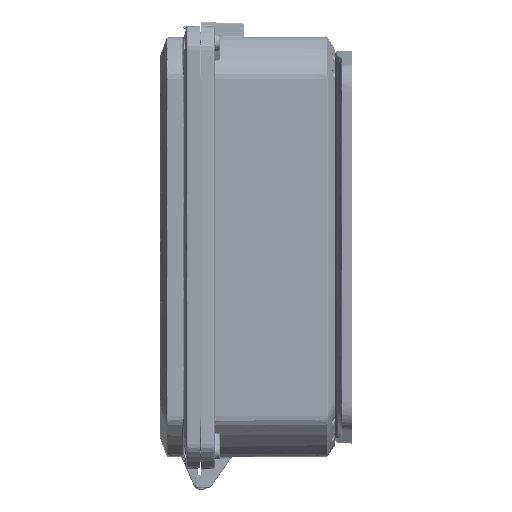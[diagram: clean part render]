
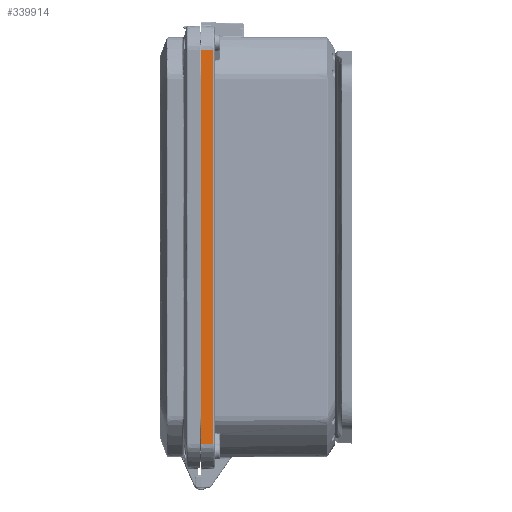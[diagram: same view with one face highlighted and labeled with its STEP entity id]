
A CAD part, left-side view. The second image highlights one B-rep face of the part: STEP entity #339914.
In plain terms, the highlighted planar face has unit normal (-0.999, -0.035, 0).
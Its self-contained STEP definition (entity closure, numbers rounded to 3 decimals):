
#9771 = EDGE_CURVE ( 'NONE', #46878, #122331, #113957, .T. ) ;
#10812 = ORIENTED_EDGE ( 'NONE', *, *, #127787, .T. ) ;
#12592 = DIRECTION ( 'NONE',  ( 0.035, -0.999, 0. ) ) ;
#20513 = EDGE_LOOP ( 'NONE', ( #248879, #258078, #123586, #10812 ) ) ;
#46878 = VERTEX_POINT ( 'NONE', #290424 ) ;
#48243 = CARTESIAN_POINT ( 'NONE',  ( -7.62, 0., 6.3 ) ) ;
#73313 = EDGE_CURVE ( 'NONE', #289320, #292439, #119264, .T. ) ;
#86196 = CARTESIAN_POINT ( 'NONE',  ( -7.62, 0., 5.89 ) ) ;
#87895 = DIRECTION ( 'NONE',  ( 0.035, -0.999, 0. ) ) ;
#105309 = VECTOR ( 'NONE', #331240, 39.37 ) ;
#105439 = PLANE ( 'NONE',  #213618 ) ;
#113957 = LINE ( 'NONE', #172443, #305520 ) ;
#119264 = LINE ( 'NONE', #225330, #105309 ) ;
#122331 = VERTEX_POINT ( 'NONE', #191539 ) ;
#123586 = ORIENTED_EDGE ( 'NONE', *, *, #9771, .F. ) ;
#127787 = EDGE_CURVE ( 'NONE', #46878, #289320, #170609, .T. ) ;
#129763 = DIRECTION ( 'NONE',  ( -0.999, -0.035, 0. ) ) ;
#133175 = FACE_OUTER_BOUND ( 'NONE', #20513, .T. ) ;
#170609 = LINE ( 'NONE', #250579, #321547 ) ;
#172443 = CARTESIAN_POINT ( 'NONE',  ( -7.62, 0., 6.3 ) ) ;
#191539 = CARTESIAN_POINT ( 'NONE',  ( -7.62, 0., 5.89 ) ) ;
#210250 = EDGE_CURVE ( 'NONE', #122331, #292439, #270341, .T. ) ;
#213618 = AXIS2_PLACEMENT_3D ( 'NONE', #48243, #129763, #235785 ) ;
#221457 = CARTESIAN_POINT ( 'NONE',  ( -7.608, -0.352, -5.89 ) ) ;
#225330 = CARTESIAN_POINT ( 'NONE',  ( -7.608, -0.352, 5.89 ) ) ;
#235785 = DIRECTION ( 'NONE',  ( 0.035, -0.999, 0. ) ) ;
#248879 = ORIENTED_EDGE ( 'NONE', *, *, #73313, .T. ) ;
#250579 = CARTESIAN_POINT ( 'NONE',  ( -7.62, 0., -5.89 ) ) ;
#258078 = ORIENTED_EDGE ( 'NONE', *, *, #210250, .F. ) ;
#270341 = LINE ( 'NONE', #86196, #322384 ) ;
#278475 = DIRECTION ( 'NONE',  ( 0., 0., 1. ) ) ;
#289320 = VERTEX_POINT ( 'NONE', #221457 ) ;
#290424 = CARTESIAN_POINT ( 'NONE',  ( -7.62, 0., -5.89 ) ) ;
#292439 = VERTEX_POINT ( 'NONE', #307597 ) ;
#305520 = VECTOR ( 'NONE', #278475, 39.37 ) ;
#307597 = CARTESIAN_POINT ( 'NONE',  ( -7.608, -0.352, 5.89 ) ) ;
#321547 = VECTOR ( 'NONE', #12592, 39.37 ) ;
#322384 = VECTOR ( 'NONE', #87895, 39.37 ) ;
#331240 = DIRECTION ( 'NONE',  ( 0., 0., 1. ) ) ;
#339914 = ADVANCED_FACE ( 'NONE', ( #133175 ), #105439, .T. ) ;
